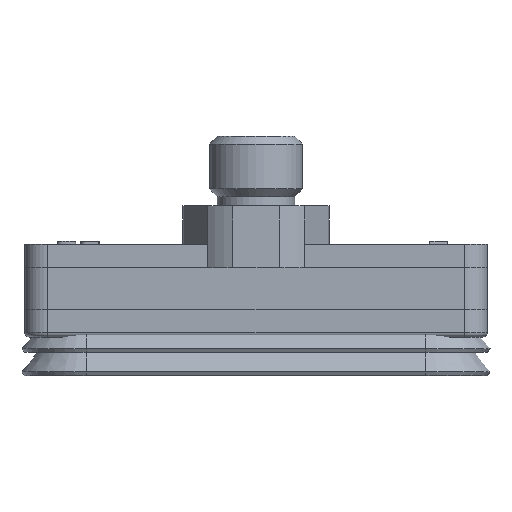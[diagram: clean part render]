
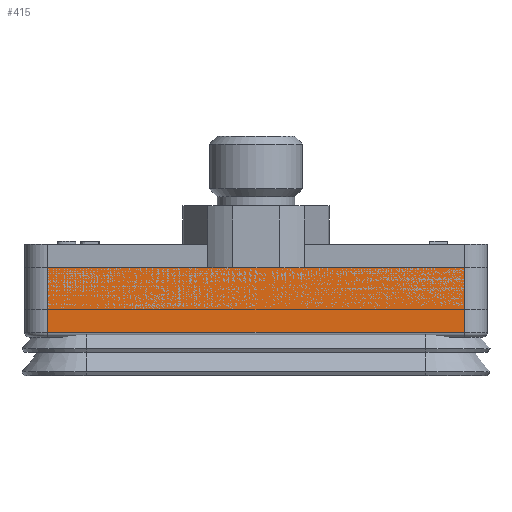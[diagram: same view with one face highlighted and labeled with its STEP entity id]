
A CAD part, front view. The second image highlights one B-rep face of the part: STEP entity #415.
In plain terms, the highlighted planar face has unit normal (0, -1, 0).
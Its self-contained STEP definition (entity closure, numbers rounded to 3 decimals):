
#415 = ADVANCED_FACE( '', ( #853 ), #854, .T. );
#853 = FACE_OUTER_BOUND( '', #1316, .T. );
#854 = PLANE( '', #1317 );
#1316 = EDGE_LOOP( '', ( #2765, #2766, #2767, #2768 ) );
#1317 = AXIS2_PLACEMENT_3D( '', #2769, #2770, #2771 );
#2765 = ORIENTED_EDGE( '', *, *, #3158, .F. );
#2766 = ORIENTED_EDGE( '', *, *, #3374, .T. );
#2767 = ORIENTED_EDGE( '', *, *, #3226, .T. );
#2768 = ORIENTED_EDGE( '', *, *, #3330, .F. );
#2769 = CARTESIAN_POINT( '', ( -13.5, -3.5, -4.5 ) );
#2770 = DIRECTION( '', ( 0., -1., 0. ) );
#2771 = DIRECTION( '', ( 0., 0., -1. ) );
#3158 = EDGE_CURVE( '', #3808, #3810, #3811, .T. );
#3226 = EDGE_CURVE( '', #3908, #3909, #3910, .T. );
#3330 = EDGE_CURVE( '', #3810, #3909, #4056, .T. );
#3374 = EDGE_CURVE( '', #3808, #3908, #4108, .T. );
#3808 = VERTEX_POINT( '', #5090 );
#3810 = VERTEX_POINT( '', #5092 );
#3811 = LINE( '', #5093, #5094 );
#3908 = VERTEX_POINT( '', #5372 );
#3909 = VERTEX_POINT( '', #5373 );
#3910 = LINE( '', #5374, #5375 );
#4056 = LINE( '', #5752, #5753 );
#4108 = LINE( '', #5875, #5876 );
#5090 = CARTESIAN_POINT( '', ( -13.5, -3.5, -4.2 ) );
#5092 = CARTESIAN_POINT( '', ( -13.5, -3.5, 0. ) );
#5093 = CARTESIAN_POINT( '', ( -13.5, -3.5, -4.5 ) );
#5094 = VECTOR( '', #6146, 1000. );
#5372 = CARTESIAN_POINT( '', ( 13.5, -3.5, -4.2 ) );
#5373 = CARTESIAN_POINT( '', ( 13.5, -3.5, 0. ) );
#5374 = CARTESIAN_POINT( '', ( 13.5, -3.5, -4.5 ) );
#5375 = VECTOR( '', #6201, 1000. );
#5752 = CARTESIAN_POINT( '', ( -13.5, -3.5, 0. ) );
#5753 = VECTOR( '', #6288, 1000. );
#5875 = CARTESIAN_POINT( '', ( 13.5, -3.5, -4.2 ) );
#5876 = VECTOR( '', #6322, 1000. );
#6146 = DIRECTION( '', ( 0., 0., 1. ) );
#6201 = DIRECTION( '', ( 0., 0., 1. ) );
#6288 = DIRECTION( '', ( 1., 0., 0. ) );
#6322 = DIRECTION( '', ( 1., 0., 0. ) );
